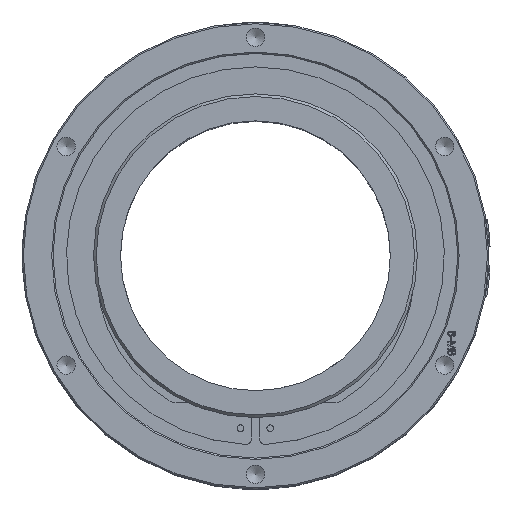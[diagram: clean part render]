
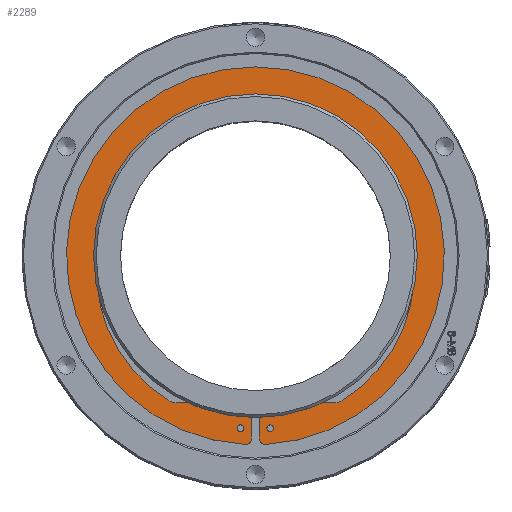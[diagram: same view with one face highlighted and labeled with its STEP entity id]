
A CAD part, top view. The second image highlights one B-rep face of the part: STEP entity #2289.
In plain terms, the highlighted planar face has unit normal (0, 0, 1).
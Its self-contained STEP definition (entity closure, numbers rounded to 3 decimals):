
#506=FACE_BOUND('',#5252,.T.);
#507=FACE_BOUND('',#5253,.T.);
#508=FACE_BOUND('',#5254,.T.);
#750=CIRCLE('',#22789,58.);
#751=CIRCLE('',#22790,58.);
#752=CIRCLE('',#22791,58.);
#757=CIRCLE('',#22812,1.25);
#758=CIRCLE('',#22813,1.25);
#759=CIRCLE('',#22814,2.);
#760=CIRCLE('',#22815,70.);
#761=CIRCLE('',#22816,2.);
#762=CIRCLE('',#22817,2.);
#763=CIRCLE('',#22818,6.);
#764=CIRCLE('',#22819,6.);
#765=CIRCLE('',#22820,56.5);
#766=CIRCLE('',#22821,56.5);
#767=CIRCLE('',#22822,6.);
#768=CIRCLE('',#22823,6.);
#769=CIRCLE('',#22824,2.);
#2289=ADVANCED_FACE('',(#506,#507,#508),#3065,.T.);
#3065=PLANE('',#22825);
#5252=EDGE_LOOP('',(#11124));
#5253=EDGE_LOOP('',(#11125));
#5254=EDGE_LOOP('',(#11126,#11127,#11128,#11129,#11130,#11131,#11132,#11133,
#11134,#11135,#11136,#11137,#11138,#11139,#11140,#11141,#11142,#11143));
#6096=LINE('',#40444,#6953);
#6097=LINE('',#40453,#6954);
#6098=LINE('',#40458,#6955);
#6099=LINE('',#40467,#6956);
#6953=VECTOR('',#25158,1.);
#6954=VECTOR('',#25165,1.);
#6955=VECTOR('',#25170,1.);
#6956=VECTOR('',#25179,1.);
#11124=ORIENTED_EDGE('',*,*,#18211,.T.);
#11125=ORIENTED_EDGE('',*,*,#18212,.T.);
#11126=ORIENTED_EDGE('',*,*,#18213,.T.);
#11127=ORIENTED_EDGE('',*,*,#18214,.T.);
#11128=ORIENTED_EDGE('',*,*,#18215,.F.);
#11129=ORIENTED_EDGE('',*,*,#18216,.T.);
#11130=ORIENTED_EDGE('',*,*,#18217,.T.);
#11131=ORIENTED_EDGE('',*,*,#18218,.T.);
#11132=ORIENTED_EDGE('',*,*,#18205,.F.);
#11133=ORIENTED_EDGE('',*,*,#18219,.T.);
#11134=ORIENTED_EDGE('',*,*,#18220,.F.);
#11135=ORIENTED_EDGE('',*,*,#18221,.T.);
#11136=ORIENTED_EDGE('',*,*,#18222,.T.);
#11137=ORIENTED_EDGE('',*,*,#18202,.F.);
#11138=ORIENTED_EDGE('',*,*,#18223,.T.);
#11139=ORIENTED_EDGE('',*,*,#18224,.T.);
#11140=ORIENTED_EDGE('',*,*,#18225,.F.);
#11141=ORIENTED_EDGE('',*,*,#18226,.T.);
#11142=ORIENTED_EDGE('',*,*,#18199,.F.);
#11143=ORIENTED_EDGE('',*,*,#18227,.T.);
#15340=VERTEX_POINT('',#40402);
#15341=VERTEX_POINT('',#40404);
#15342=VERTEX_POINT('',#40407);
#15343=VERTEX_POINT('',#40409);
#15344=VERTEX_POINT('',#40412);
#15345=VERTEX_POINT('',#40414);
#15350=VERTEX_POINT('',#40441);
#15351=VERTEX_POINT('',#40443);
#15352=VERTEX_POINT('',#40445);
#15353=VERTEX_POINT('',#40446);
#15354=VERTEX_POINT('',#40448);
#15355=VERTEX_POINT('',#40450);
#15356=VERTEX_POINT('',#40452);
#15357=VERTEX_POINT('',#40454);
#15358=VERTEX_POINT('',#40457);
#15359=VERTEX_POINT('',#40459);
#15360=VERTEX_POINT('',#40461);
#15361=VERTEX_POINT('',#40464);
#15362=VERTEX_POINT('',#40466);
#15363=VERTEX_POINT('',#40468);
#18199=EDGE_CURVE('',#15340,#15341,#750,.T.);
#18202=EDGE_CURVE('',#15342,#15343,#751,.T.);
#18205=EDGE_CURVE('',#15344,#15345,#752,.T.);
#18211=EDGE_CURVE('',#15350,#15350,#757,.T.);
#18212=EDGE_CURVE('',#15351,#15351,#758,.T.);
#18213=EDGE_CURVE('',#15352,#15353,#6096,.T.);
#18214=EDGE_CURVE('',#15353,#15354,#759,.T.);
#18215=EDGE_CURVE('',#15355,#15354,#760,.T.);
#18216=EDGE_CURVE('',#15355,#15356,#761,.T.);
#18217=EDGE_CURVE('',#15356,#15357,#6097,.T.);
#18218=EDGE_CURVE('',#15357,#15345,#762,.T.);
#18219=EDGE_CURVE('',#15344,#15358,#763,.T.);
#18220=EDGE_CURVE('',#15359,#15358,#6098,.T.);
#18221=EDGE_CURVE('',#15359,#15360,#764,.T.);
#18222=EDGE_CURVE('',#15360,#15343,#765,.T.);
#18223=EDGE_CURVE('',#15342,#15361,#766,.T.);
#18224=EDGE_CURVE('',#15361,#15362,#767,.T.);
#18225=EDGE_CURVE('',#15363,#15362,#6099,.T.);
#18226=EDGE_CURVE('',#15363,#15341,#768,.T.);
#18227=EDGE_CURVE('',#15340,#15352,#769,.T.);
#22789=AXIS2_PLACEMENT_3D('',#40403,#25103,#25104);
#22790=AXIS2_PLACEMENT_3D('',#40408,#25107,#25108);
#22791=AXIS2_PLACEMENT_3D('',#40413,#25111,#25112);
#22812=AXIS2_PLACEMENT_3D('',#40440,#25154,#25155);
#22813=AXIS2_PLACEMENT_3D('',#40442,#25156,#25157);
#22814=AXIS2_PLACEMENT_3D('',#40447,#25159,#25160);
#22815=AXIS2_PLACEMENT_3D('',#40449,#25161,#25162);
#22816=AXIS2_PLACEMENT_3D('',#40451,#25163,#25164);
#22817=AXIS2_PLACEMENT_3D('',#40455,#25166,#25167);
#22818=AXIS2_PLACEMENT_3D('',#40456,#25168,#25169);
#22819=AXIS2_PLACEMENT_3D('',#40460,#25171,#25172);
#22820=AXIS2_PLACEMENT_3D('',#40462,#25173,#25174);
#22821=AXIS2_PLACEMENT_3D('',#40463,#25175,#25176);
#22822=AXIS2_PLACEMENT_3D('',#40465,#25177,#25178);
#22823=AXIS2_PLACEMENT_3D('',#40469,#25180,#25181);
#22824=AXIS2_PLACEMENT_3D('',#40470,#25182,#25183);
#22825=AXIS2_PLACEMENT_3D('',#40471,#25184,#25185);
#25103=DIRECTION('',(0.,0.,1.));
#25104=DIRECTION('',(1.,0.,0.));
#25107=DIRECTION('',(0.,0.,1.));
#25108=DIRECTION('',(1.,0.,0.));
#25111=DIRECTION('',(0.,0.,1.));
#25112=DIRECTION('',(1.,0.,0.));
#25154=DIRECTION('',(0.,0.,-1.));
#25155=DIRECTION('',(1.,0.,0.));
#25156=DIRECTION('',(0.,0.,-1.));
#25157=DIRECTION('',(1.,0.,0.));
#25158=DIRECTION('',(0.,-1.,0.));
#25159=DIRECTION('',(0.,0.,1.));
#25160=DIRECTION('',(1.,0.,0.));
#25161=DIRECTION('',(0.,0.,-1.));
#25162=DIRECTION('',(1.,0.,0.));
#25163=DIRECTION('',(0.,0.,1.));
#25164=DIRECTION('',(1.,0.,0.));
#25165=DIRECTION('',(0.,1.,0.));
#25166=DIRECTION('',(0.,0.,1.));
#25167=DIRECTION('',(1.,0.,0.));
#25168=DIRECTION('',(0.,0.,1.));
#25169=DIRECTION('',(1.,0.,0.));
#25170=DIRECTION('',(1.,0.,0.));
#25171=DIRECTION('',(0.,0.,-1.));
#25172=DIRECTION('',(1.,0.,0.));
#25173=DIRECTION('',(0.,0.,-1.));
#25174=DIRECTION('',(1.,0.,0.));
#25175=DIRECTION('',(0.,0.,-1.));
#25176=DIRECTION('',(1.,0.,0.));
#25177=DIRECTION('',(0.,0.,-1.));
#25178=DIRECTION('',(1.,0.,0.));
#25179=DIRECTION('',(1.,0.,0.));
#25180=DIRECTION('',(0.,0.,1.));
#25181=DIRECTION('',(1.,0.,0.));
#25182=DIRECTION('',(0.,0.,1.));
#25183=DIRECTION('',(1.,0.,0.));
#25184=DIRECTION('',(0.,0.,1.));
#25185=DIRECTION('',(1.,0.,0.));
#40402=CARTESIAN_POINT('',(3.383,-57.901,-5.));
#40403=CARTESIAN_POINT('',(0.,0.,-5.));
#40404=CARTESIAN_POINT('',(18.969,-54.811,-5.));
#40407=CARTESIAN_POINT('',(57.548,7.226,-5.));
#40408=CARTESIAN_POINT('',(0.,0.,-5.));
#40409=CARTESIAN_POINT('',(-57.548,7.226,-5.));
#40412=CARTESIAN_POINT('',(-18.969,-54.811,-5.));
#40413=CARTESIAN_POINT('',(0.,0.,-5.));
#40414=CARTESIAN_POINT('',(-3.383,-57.901,-5.));
#40440=CARTESIAN_POINT('',(5.5,-63.904,-5.));
#40441=CARTESIAN_POINT('',(6.75,-63.904,-5.));
#40442=CARTESIAN_POINT('',(-5.5,-63.904,-5.));
#40443=CARTESIAN_POINT('',(-4.25,-63.904,-5.));
#40444=CARTESIAN_POINT('',(1.5,0.,-5.));
#40445=CARTESIAN_POINT('',(1.5,-59.898,-5.));
#40446=CARTESIAN_POINT('',(1.5,-67.91,-5.));
#40447=CARTESIAN_POINT('',(3.5,-67.91,-5.));
#40448=CARTESIAN_POINT('',(3.603,-69.907,-5.));
#40449=CARTESIAN_POINT('',(0.,0.,-5.));
#40450=CARTESIAN_POINT('',(-3.603,-69.907,-5.));
#40451=CARTESIAN_POINT('',(-3.5,-67.91,-5.));
#40452=CARTESIAN_POINT('',(-1.5,-67.91,-5.));
#40453=CARTESIAN_POINT('',(-1.5,0.,-5.));
#40454=CARTESIAN_POINT('',(-1.5,-59.898,-5.));
#40455=CARTESIAN_POINT('',(-3.5,-59.898,-5.));
#40456=CARTESIAN_POINT('',(-20.931,-60.481,-5.));
#40457=CARTESIAN_POINT('',(-20.931,-54.481,-5.));
#40458=CARTESIAN_POINT('',(-2.5,-54.481,-5.));
#40459=CARTESIAN_POINT('',(-29.013,-54.481,-5.));
#40460=CARTESIAN_POINT('',(-29.013,-48.481,-5.));
#40461=CARTESIAN_POINT('',(-32.163,-53.587,-5.));
#40462=CARTESIAN_POINT('',(-2.5,-5.5,-5.));
#40463=CARTESIAN_POINT('',(2.5,-5.5,-5.));
#40464=CARTESIAN_POINT('',(32.163,-53.587,-5.));
#40465=CARTESIAN_POINT('',(29.013,-48.481,-5.));
#40466=CARTESIAN_POINT('',(29.013,-54.481,-5.));
#40467=CARTESIAN_POINT('',(2.5,-54.481,-5.));
#40468=CARTESIAN_POINT('',(20.931,-54.481,-5.));
#40469=CARTESIAN_POINT('',(20.931,-60.481,-5.));
#40470=CARTESIAN_POINT('',(3.5,-59.898,-5.));
#40471=CARTESIAN_POINT('',(0.,0.,-5.));
